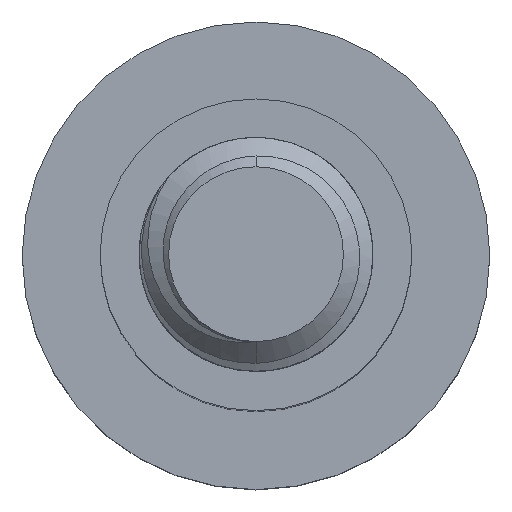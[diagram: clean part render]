
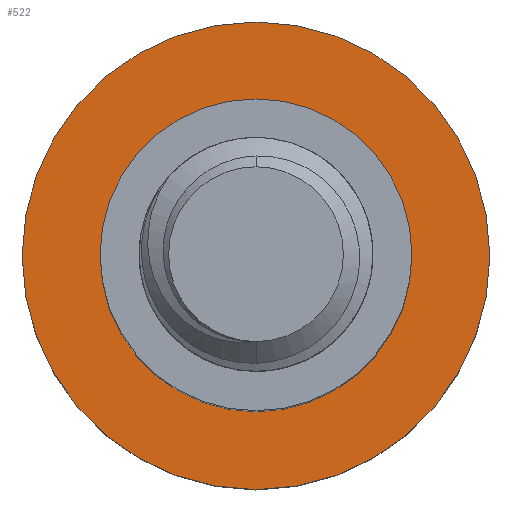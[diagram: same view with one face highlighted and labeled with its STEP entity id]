
A CAD part, top view. The second image highlights one B-rep face of the part: STEP entity #522.
In plain terms, the highlighted planar face has unit normal (0, 0, 1).
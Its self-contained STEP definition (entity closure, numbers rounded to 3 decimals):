
#177 = EDGE_LOOP ( 'NONE', ( #2537, #4286 ) ) ;
#237 = AXIS2_PLACEMENT_3D ( 'NONE', #4813, #3617, #4418 ) ;
#240 = AXIS2_PLACEMENT_3D ( 'NONE', #2638, #3467, #305 ) ;
#241 = CARTESIAN_POINT ( 'NONE',  ( -12., 0., -30. ) ) ;
#305 = DIRECTION ( 'NONE',  ( -1., 0., 0. ) ) ;
#522 = ADVANCED_FACE ( 'NONE', ( #3383, #1840 ), #2652, .F. ) ;
#861 = ORIENTED_EDGE ( 'NONE', *, *, #1297, .T. ) ;
#882 = CARTESIAN_POINT ( 'NONE',  ( 12., 0., -30. ) ) ;
#1037 = EDGE_CURVE ( 'NONE', #1290, #2052, #3076, .T. ) ;
#1216 = DIRECTION ( 'NONE',  ( -1., 0., 0. ) ) ;
#1290 = VERTEX_POINT ( 'NONE', #882 ) ;
#1297 = EDGE_CURVE ( 'NONE', #4003, #3493, #1479, .T. ) ;
#1479 = CIRCLE ( 'NONE', #2475, 8. ) ;
#1565 = AXIS2_PLACEMENT_3D ( 'NONE', #2892, #5186, #3761 ) ;
#1609 = DIRECTION ( 'NONE',  ( 0., 0., -1. ) ) ;
#1732 = EDGE_LOOP ( 'NONE', ( #861, #3288 ) ) ;
#1840 = FACE_OUTER_BOUND ( 'NONE', #177, .T. ) ;
#1990 = CIRCLE ( 'NONE', #237, 12. ) ;
#2052 = VERTEX_POINT ( 'NONE', #241 ) ;
#2475 = AXIS2_PLACEMENT_3D ( 'NONE', #4389, #1609, #1216 ) ;
#2537 = ORIENTED_EDGE ( 'NONE', *, *, #1037, .F. ) ;
#2625 = AXIS2_PLACEMENT_3D ( 'NONE', #4250, #3453, #3585 ) ;
#2638 = CARTESIAN_POINT ( 'NONE',  ( 0., 0., -30. ) ) ;
#2652 = PLANE ( 'NONE',  #2625 ) ;
#2674 = CARTESIAN_POINT ( 'NONE',  ( 8., 0., -30. ) ) ;
#2892 = CARTESIAN_POINT ( 'NONE',  ( 0., 0., -30. ) ) ;
#3076 = CIRCLE ( 'NONE', #1565, 12. ) ;
#3093 = EDGE_CURVE ( 'NONE', #2052, #1290, #1990, .T. ) ;
#3288 = ORIENTED_EDGE ( 'NONE', *, *, #4298, .T. ) ;
#3383 = FACE_BOUND ( 'NONE', #1732, .T. ) ;
#3453 = DIRECTION ( 'NONE',  ( 0., 0., -1. ) ) ;
#3467 = DIRECTION ( 'NONE',  ( 0., 0., -1. ) ) ;
#3493 = VERTEX_POINT ( 'NONE', #2674 ) ;
#3585 = DIRECTION ( 'NONE',  ( -1., 0., 0. ) ) ;
#3617 = DIRECTION ( 'NONE',  ( 0., 0., -1. ) ) ;
#3761 = DIRECTION ( 'NONE',  ( -1., 0., 0. ) ) ;
#4003 = VERTEX_POINT ( 'NONE', #4457 ) ;
#4250 = CARTESIAN_POINT ( 'NONE',  ( 0., 0., -30. ) ) ;
#4286 = ORIENTED_EDGE ( 'NONE', *, *, #3093, .F. ) ;
#4298 = EDGE_CURVE ( 'NONE', #3493, #4003, #4939, .T. ) ;
#4389 = CARTESIAN_POINT ( 'NONE',  ( 0., 0., -30. ) ) ;
#4418 = DIRECTION ( 'NONE',  ( -1., 0., 0. ) ) ;
#4457 = CARTESIAN_POINT ( 'NONE',  ( -8., 0., -30. ) ) ;
#4813 = CARTESIAN_POINT ( 'NONE',  ( 0., 0., -30. ) ) ;
#4939 = CIRCLE ( 'NONE', #240, 8. ) ;
#5186 = DIRECTION ( 'NONE',  ( 0., 0., -1. ) ) ;
